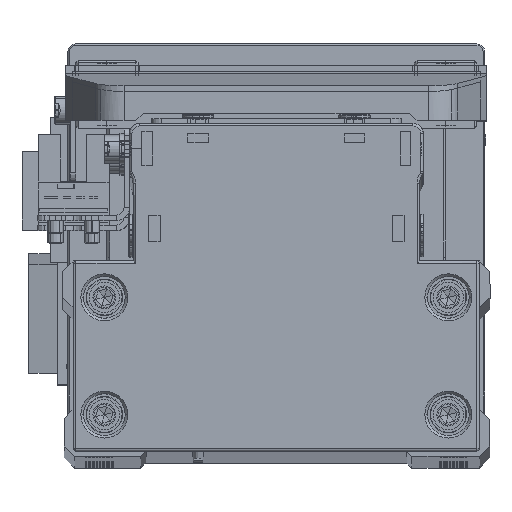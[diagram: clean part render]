
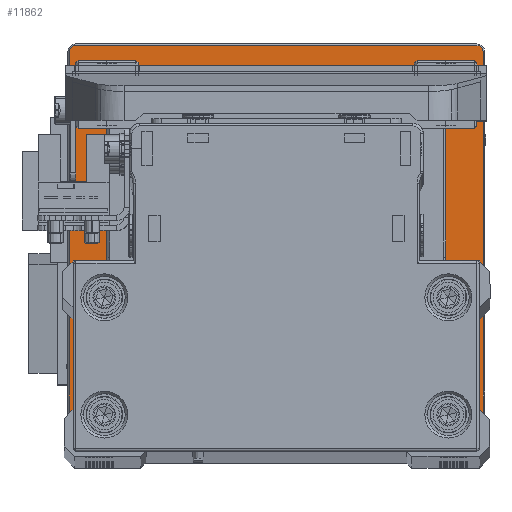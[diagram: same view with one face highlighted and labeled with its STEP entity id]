
A CAD part, top view. The second image highlights one B-rep face of the part: STEP entity #11862.
In plain terms, the highlighted planar face has unit normal (0, 0, 1) as drawn and (0, 1, 0) by its records, which use the part's own axes.
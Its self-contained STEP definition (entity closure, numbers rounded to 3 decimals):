
#8 = CARTESIAN_POINT ( 'NONE',  ( 39.7, 12., -38.5 ) ) ;
#92 = DIRECTION ( 'NONE',  ( 0., 1., 0. ) ) ;
#405 = VERTEX_POINT ( 'NONE', #33978 ) ;
#683 = VERTEX_POINT ( 'NONE', #39042 ) ;
#868 = ORIENTED_EDGE ( 'NONE', *, *, #9125, .T. ) ;
#921 = AXIS2_PLACEMENT_3D ( 'NONE', #40302, #12274, #24750 ) ;
#1498 = DIRECTION ( 'NONE',  ( 0., 0., 1. ) ) ;
#2052 = DIRECTION ( 'NONE',  ( 1., 0., 0. ) ) ;
#2925 = ORIENTED_EDGE ( 'NONE', *, *, #5931, .T. ) ;
#3553 = DIRECTION ( 'NONE',  ( 0., 0., -1. ) ) ;
#3900 = VERTEX_POINT ( 'NONE', #20029 ) ;
#4156 = AXIS2_PLACEMENT_3D ( 'NONE', #24736, #37215, #9179 ) ;
#5608 = ORIENTED_EDGE ( 'NONE', *, *, #23814, .T. ) ;
#5931 = EDGE_CURVE ( 'NONE', #24983, #405, #28520, .T. ) ;
#5953 = CARTESIAN_POINT ( 'NONE',  ( 0., 12., 0. ) ) ;
#6610 = PLANE ( 'NONE',  #10181 ) ;
#7838 = CARTESIAN_POINT ( 'NONE',  ( 0., 12., -20.5 ) ) ;
#9125 = EDGE_CURVE ( 'NONE', #405, #31358, #37935, .T. ) ;
#9179 = DIRECTION ( 'NONE',  ( 0., 0., -1. ) ) ;
#9616 = DIRECTION ( 'NONE',  ( 0., 0., -1. ) ) ;
#9901 = CARTESIAN_POINT ( 'NONE',  ( 0., 12., -39.7 ) ) ;
#10181 = AXIS2_PLACEMENT_3D ( 'NONE', #19101, #31593, #3553 ) ;
#10890 = AXIS2_PLACEMENT_3D ( 'NONE', #28149, #92, #12593 ) ;
#11324 = DIRECTION ( 'NONE',  ( 0., 1., 0. ) ) ;
#11474 = CARTESIAN_POINT ( 'NONE',  ( -39.7, 12., 0. ) ) ;
#11501 = VECTOR ( 'NONE', #2052, 1000. ) ;
#11862 = ADVANCED_FACE ( 'NONE', ( #22181, #34664 ), #6610, .F. ) ;
#12011 = CARTESIAN_POINT ( 'NONE',  ( -38.5, 12., 39.7 ) ) ;
#12086 = AXIS2_PLACEMENT_3D ( 'NONE', #39343, #11324, #23795 ) ;
#12236 = VERTEX_POINT ( 'NONE', #31148 ) ;
#12274 = DIRECTION ( 'NONE',  ( 0., 1., 0. ) ) ;
#12422 = ORIENTED_EDGE ( 'NONE', *, *, #25057, .T. ) ;
#12593 = DIRECTION ( 'NONE',  ( 0., 0., -1. ) ) ;
#13200 = AXIS2_PLACEMENT_3D ( 'NONE', #5953, #18445, #30932 ) ;
#13916 = EDGE_CURVE ( 'NONE', #24433, #24463, #39490, .T. ) ;
#14034 = CIRCLE ( 'NONE', #19224, 20.5 ) ;
#17030 = ORIENTED_EDGE ( 'NONE', *, *, #26360, .F. ) ;
#17061 = CARTESIAN_POINT ( 'NONE',  ( 0., 12., 0. ) ) ;
#17618 = LINE ( 'NONE', #30095, #11501 ) ;
#18445 = DIRECTION ( 'NONE',  ( 0., 1., 0. ) ) ;
#18561 = CIRCLE ( 'NONE', #921, 1.2 ) ;
#19101 = CARTESIAN_POINT ( 'NONE',  ( 0., 12., 0. ) ) ;
#19224 = AXIS2_PLACEMENT_3D ( 'NONE', #17061, #29529, #1498 ) ;
#20029 = CARTESIAN_POINT ( 'NONE',  ( 38.5, 12., 39.7 ) ) ;
#20072 = CARTESIAN_POINT ( 'NONE',  ( -38.5, 12., -39.7 ) ) ;
#21799 = CIRCLE ( 'NONE', #4156, 1.2 ) ;
#22181 = FACE_OUTER_BOUND ( 'NONE', #31446, .T. ) ;
#22395 = DIRECTION ( 'NONE',  ( -1., 0., 0. ) ) ;
#23795 = DIRECTION ( 'NONE',  ( 0., 0., -1. ) ) ;
#23814 = EDGE_CURVE ( 'NONE', #30137, #3900, #17618, .T. ) ;
#23954 = DIRECTION ( 'NONE',  ( 0., 0., 1. ) ) ;
#24050 = ORIENTED_EDGE ( 'NONE', *, *, #39377, .T. ) ;
#24231 = CARTESIAN_POINT ( 'NONE',  ( -39.7, 12., -38.5 ) ) ;
#24433 = VERTEX_POINT ( 'NONE', #24231 ) ;
#24463 = VERTEX_POINT ( 'NONE', #30574 ) ;
#24736 = CARTESIAN_POINT ( 'NONE',  ( -38.5, 12., 38.5 ) ) ;
#24750 = DIRECTION ( 'NONE',  ( 0., 0., -1. ) ) ;
#24947 = ORIENTED_EDGE ( 'NONE', *, *, #39947, .F. ) ;
#24983 = VERTEX_POINT ( 'NONE', #8 ) ;
#25057 = EDGE_CURVE ( 'NONE', #683, #24983, #25180, .T. ) ;
#25180 = LINE ( 'NONE', #37655, #34455 ) ;
#26275 = EDGE_LOOP ( 'NONE', ( #24947, #17030 ) ) ;
#26360 = EDGE_CURVE ( 'NONE', #29680, #12236, #30828, .T. ) ;
#28149 = CARTESIAN_POINT ( 'NONE',  ( 38.5, 12., -38.5 ) ) ;
#28520 = CIRCLE ( 'NONE', #10890, 1.2 ) ;
#29529 = DIRECTION ( 'NONE',  ( 0., 1., 0. ) ) ;
#29680 = VERTEX_POINT ( 'NONE', #7838 ) ;
#29735 = CIRCLE ( 'NONE', #12086, 1.2 ) ;
#30095 = CARTESIAN_POINT ( 'NONE',  ( 0., 12., 39.7 ) ) ;
#30137 = VERTEX_POINT ( 'NONE', #12011 ) ;
#30574 = CARTESIAN_POINT ( 'NONE',  ( -39.7, 12., 38.5 ) ) ;
#30828 = CIRCLE ( 'NONE', #13200, 20.5 ) ;
#30932 = DIRECTION ( 'NONE',  ( 0., 0., 1. ) ) ;
#31148 = CARTESIAN_POINT ( 'NONE',  ( 0., 12., 20.5 ) ) ;
#31358 = VERTEX_POINT ( 'NONE', #20072 ) ;
#31446 = EDGE_LOOP ( 'NONE', ( #2925, #868, #36220, #35081, #24050, #5608, #34774, #12422 ) ) ;
#31593 = DIRECTION ( 'NONE',  ( 0., -1., 0. ) ) ;
#31624 = EDGE_CURVE ( 'NONE', #31358, #24433, #18561, .T. ) ;
#32319 = EDGE_CURVE ( 'NONE', #3900, #683, #29735, .T. ) ;
#33978 = CARTESIAN_POINT ( 'NONE',  ( 38.5, 12., -39.7 ) ) ;
#34455 = VECTOR ( 'NONE', #9616, 1000. ) ;
#34664 = FACE_BOUND ( 'NONE', #26275, .T. ) ;
#34774 = ORIENTED_EDGE ( 'NONE', *, *, #32319, .T. ) ;
#35081 = ORIENTED_EDGE ( 'NONE', *, *, #13916, .T. ) ;
#36220 = ORIENTED_EDGE ( 'NONE', *, *, #31624, .T. ) ;
#37215 = DIRECTION ( 'NONE',  ( 0., 1., 0. ) ) ;
#37655 = CARTESIAN_POINT ( 'NONE',  ( 39.7, 12., 0. ) ) ;
#37935 = LINE ( 'NONE', #9901, #40234 ) ;
#38878 = VECTOR ( 'NONE', #23954, 1000. ) ;
#39042 = CARTESIAN_POINT ( 'NONE',  ( 39.7, 12., 38.5 ) ) ;
#39343 = CARTESIAN_POINT ( 'NONE',  ( 38.5, 12., 38.5 ) ) ;
#39377 = EDGE_CURVE ( 'NONE', #24463, #30137, #21799, .T. ) ;
#39490 = LINE ( 'NONE', #11474, #38878 ) ;
#39947 = EDGE_CURVE ( 'NONE', #12236, #29680, #14034, .T. ) ;
#40234 = VECTOR ( 'NONE', #22395, 1000. ) ;
#40302 = CARTESIAN_POINT ( 'NONE',  ( -38.5, 12., -38.5 ) ) ;
